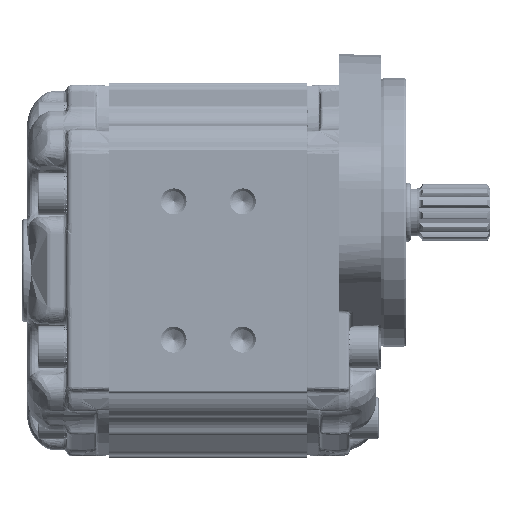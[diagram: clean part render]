
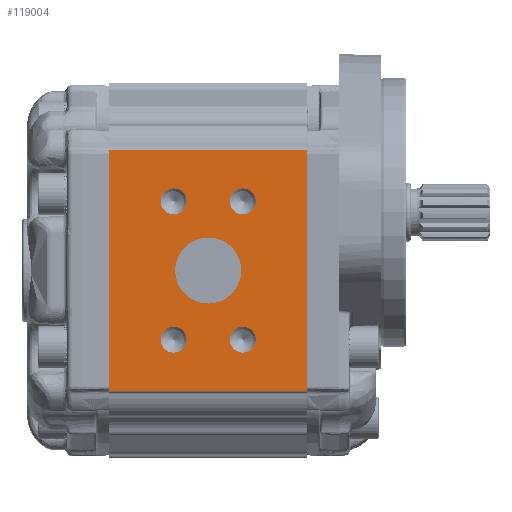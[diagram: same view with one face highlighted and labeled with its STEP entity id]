
A CAD part, left-side view. The second image highlights one B-rep face of the part: STEP entity #119004.
In plain terms, the highlighted planar face has unit normal (-1, 0, 0).
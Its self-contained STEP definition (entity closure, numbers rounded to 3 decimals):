
#7396=PLANE('',#125393);
#10166=LINE('',#217035,#14926);
#10177=LINE('',#217120,#14937);
#10215=LINE('',#217228,#14975);
#10216=LINE('',#217229,#14976);
#14926=VECTOR('',#138790,1000.);
#14937=VECTOR('',#138865,1000.);
#14975=VECTOR('',#138991,1000.);
#14976=VECTOR('',#138992,1000.);
#30622=ORIENTED_EDGE('',*,*,#51746,.T.);
#30623=ORIENTED_EDGE('',*,*,#51747,.T.);
#30624=ORIENTED_EDGE('',*,*,#51748,.T.);
#30625=ORIENTED_EDGE('',*,*,#51749,.T.);
#30626=ORIENTED_EDGE('',*,*,#51750,.T.);
#30627=ORIENTED_EDGE('',*,*,#51650,.F.);
#30628=ORIENTED_EDGE('',*,*,#51751,.T.);
#30629=ORIENTED_EDGE('',*,*,#51692,.F.);
#30630=ORIENTED_EDGE('',*,*,#51752,.T.);
#51650=EDGE_CURVE('',#63093,#63094,#10166,.T.);
#51692=EDGE_CURVE('',#63135,#63136,#10177,.T.);
#51746=EDGE_CURVE('',#63157,#63157,#69817,.T.);
#51747=EDGE_CURVE('',#63158,#63158,#69818,.F.);
#51748=EDGE_CURVE('',#63159,#63159,#69819,.F.);
#51749=EDGE_CURVE('',#63160,#63160,#69820,.F.);
#51750=EDGE_CURVE('',#63161,#63161,#69821,.F.);
#51751=EDGE_CURVE('',#63093,#63136,#10215,.F.);
#51752=EDGE_CURVE('',#63135,#63094,#10216,.F.);
#63093=VERTEX_POINT('',#217034);
#63094=VERTEX_POINT('',#217036);
#63135=VERTEX_POINT('',#217119);
#63136=VERTEX_POINT('',#217121);
#63157=VERTEX_POINT('',#217219);
#63158=VERTEX_POINT('',#217221);
#63159=VERTEX_POINT('',#217223);
#63160=VERTEX_POINT('',#217225);
#63161=VERTEX_POINT('',#217227);
#69817=CIRCLE('',#125394,12.5);
#69818=CIRCLE('',#125395,4.903);
#69819=CIRCLE('',#125396,4.903);
#69820=CIRCLE('',#125397,4.903);
#69821=CIRCLE('',#125398,4.903);
#74173=EDGE_LOOP('',(#30622));
#74174=EDGE_LOOP('',(#30623));
#74175=EDGE_LOOP('',(#30624));
#74176=EDGE_LOOP('',(#30625));
#74177=EDGE_LOOP('',(#30626));
#74178=EDGE_LOOP('',(#30627,#30628,#30629,#30630));
#79323=FACE_BOUND('',#74173,.T.);
#79324=FACE_BOUND('',#74174,.T.);
#79325=FACE_BOUND('',#74175,.T.);
#79326=FACE_BOUND('',#74176,.T.);
#79327=FACE_BOUND('',#74177,.T.);
#79328=FACE_BOUND('',#74178,.T.);
#119004=ADVANCED_FACE('',(#79323,#79324,#79325,#79326,#79327,#79328),#7396,
 .T.);
#125393=AXIS2_PLACEMENT_3D('',#217217,#138979,#138980);
#125394=AXIS2_PLACEMENT_3D('',#217218,#138981,#138982);
#125395=AXIS2_PLACEMENT_3D('',#217220,#138983,#138984);
#125396=AXIS2_PLACEMENT_3D('',#217222,#138985,#138986);
#125397=AXIS2_PLACEMENT_3D('',#217224,#138987,#138988);
#125398=AXIS2_PLACEMENT_3D('',#217226,#138989,#138990);
#138790=DIRECTION('',(0.,0.,1.));
#138865=DIRECTION('',(0.,0.,-1.));
#138979=DIRECTION('',(-1.,0.,0.));
#138980=DIRECTION('',(0.,0.,-1.));
#138981=DIRECTION('',(1.,0.,0.));
#138982=DIRECTION('',(0.,0.,-1.));
#138983=DIRECTION('',(-1.,0.,0.));
#138984=DIRECTION('',(0.,0.,-1.));
#138985=DIRECTION('',(-1.,0.,0.));
#138986=DIRECTION('',(0.,0.,-1.));
#138987=DIRECTION('',(-1.,0.,0.));
#138988=DIRECTION('',(0.,0.,-1.));
#138989=DIRECTION('',(-1.,0.,0.));
#138990=DIRECTION('',(0.,0.,-1.));
#138991=DIRECTION('',(0.,1.,0.));
#138992=DIRECTION('',(0.,-1.,0.));
#217034=CARTESIAN_POINT('',(-57.5,75.,-45.5));
#217035=CARTESIAN_POINT('',(-57.5,75.,-84.819));
#217036=CARTESIAN_POINT('',(-57.5,75.,45.5));
#217119=CARTESIAN_POINT('',(-57.5,0.,45.5));
#217120=CARTESIAN_POINT('',(-57.5,0.,-44.978));
#217121=CARTESIAN_POINT('',(-57.5,0.,-45.5));
#217217=CARTESIAN_POINT('',(-57.5,-149.417,-84.819));
#217218=CARTESIAN_POINT('',(-57.5,37.5,0.));
#217219=CARTESIAN_POINT('',(-57.5,37.5,-12.5));
#217220=CARTESIAN_POINT('',(-57.5,24.405,26.185));
#217221=CARTESIAN_POINT('',(-57.5,24.405,21.282));
#217222=CARTESIAN_POINT('',(-57.5,50.595,26.185));
#217223=CARTESIAN_POINT('',(-57.5,50.595,21.282));
#217224=CARTESIAN_POINT('',(-57.5,50.595,-26.185));
#217225=CARTESIAN_POINT('',(-57.5,50.595,-31.088));
#217226=CARTESIAN_POINT('',(-57.5,24.405,-26.185));
#217227=CARTESIAN_POINT('',(-57.5,24.405,-31.088));
#217228=CARTESIAN_POINT('',(-57.5,-149.417,-45.5));
#217229=CARTESIAN_POINT('',(-57.5,-149.417,45.5));
